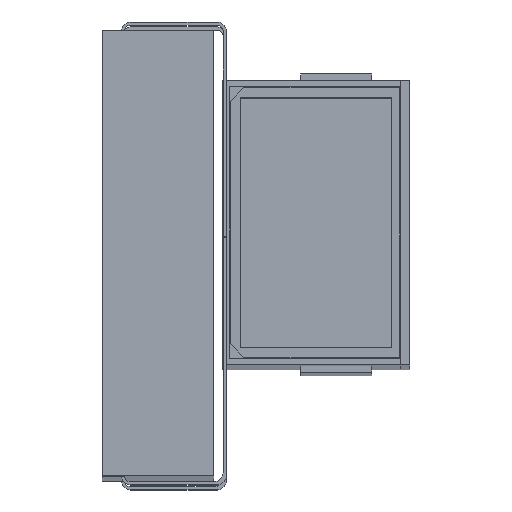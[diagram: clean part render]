
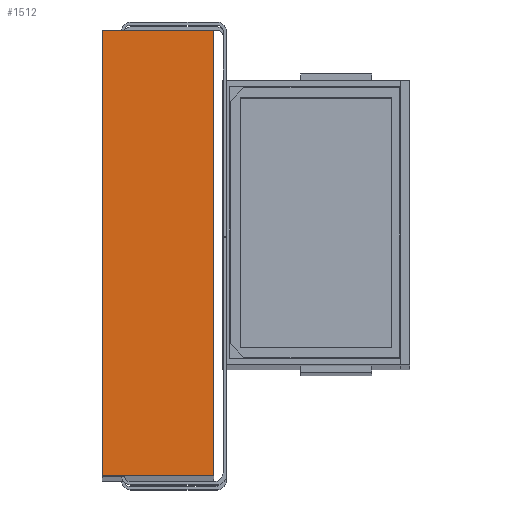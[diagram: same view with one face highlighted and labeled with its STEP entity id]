
A CAD part, top view. The second image highlights one B-rep face of the part: STEP entity #1512.
In plain terms, the highlighted planar face has unit normal (0, 0, 1).
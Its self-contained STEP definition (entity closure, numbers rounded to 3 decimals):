
#24 = CARTESIAN_POINT ( 'NONE',  ( 117.146, -537.3, 348.309 ) ) ;
#76 = DIRECTION ( 'NONE',  ( 0., 0., -1. ) ) ;
#96 = CARTESIAN_POINT ( 'NONE',  ( 117.146, -637.3, 348.309 ) ) ;
#111 = EDGE_CURVE ( 'NONE', #1804, #2458, #3276, .T. ) ;
#348 = EDGE_LOOP ( 'NONE', ( #1500, #1212, #1936, #3133 ) ) ;
#366 = PLANE ( 'NONE',  #819 ) ;
#383 = CARTESIAN_POINT ( 'NONE',  ( 92.146, -637.3, 348.309 ) ) ;
#453 = VECTOR ( 'NONE', #2460, 1000. ) ;
#546 = EDGE_CURVE ( 'NONE', #1466, #3219, #2153, .T. ) ;
#636 = CARTESIAN_POINT ( 'NONE',  ( 117.146, -637.3, 348.309 ) ) ;
#819 = AXIS2_PLACEMENT_3D ( 'NONE', #2873, #76, #1328 ) ;
#1212 = ORIENTED_EDGE ( 'NONE', *, *, #546, .F. ) ;
#1328 = DIRECTION ( 'NONE',  ( -1., 0., 0. ) ) ;
#1333 = EDGE_CURVE ( 'NONE', #2458, #3219, #1791, .T. ) ;
#1337 = VECTOR ( 'NONE', #2423, 1000. ) ;
#1412 = CARTESIAN_POINT ( 'NONE',  ( 92.146, -637.3, 348.309 ) ) ;
#1445 = EDGE_CURVE ( 'NONE', #1804, #1466, #3158, .T. ) ;
#1466 = VERTEX_POINT ( 'NONE', #1911 ) ;
#1488 = CARTESIAN_POINT ( 'NONE',  ( 92.146, -537.3, 348.309 ) ) ;
#1500 = ORIENTED_EDGE ( 'NONE', *, *, #1333, .T. ) ;
#1512 = ADVANCED_FACE ( 'NONE', ( #1618 ), #366, .F. ) ;
#1618 = FACE_OUTER_BOUND ( 'NONE', #348, .T. ) ;
#1660 = VECTOR ( 'NONE', #3783, 1000. ) ;
#1791 = LINE ( 'NONE', #636, #1337 ) ;
#1804 = VERTEX_POINT ( 'NONE', #2134 ) ;
#1911 = CARTESIAN_POINT ( 'NONE',  ( 92.146, -537.3, 348.309 ) ) ;
#1936 = ORIENTED_EDGE ( 'NONE', *, *, #1445, .F. ) ;
#2134 = CARTESIAN_POINT ( 'NONE',  ( 92.146, -637.3, 348.309 ) ) ;
#2153 = LINE ( 'NONE', #1488, #453 ) ;
#2423 = DIRECTION ( 'NONE',  ( 0., 1., 0. ) ) ;
#2458 = VERTEX_POINT ( 'NONE', #96 ) ;
#2460 = DIRECTION ( 'NONE',  ( 1., 0., 0. ) ) ;
#2873 = CARTESIAN_POINT ( 'NONE',  ( 92.146, -637.3, 348.309 ) ) ;
#2941 = VECTOR ( 'NONE', #3555, 1000. ) ;
#3133 = ORIENTED_EDGE ( 'NONE', *, *, #111, .T. ) ;
#3158 = LINE ( 'NONE', #383, #1660 ) ;
#3219 = VERTEX_POINT ( 'NONE', #24 ) ;
#3276 = LINE ( 'NONE', #1412, #2941 ) ;
#3555 = DIRECTION ( 'NONE',  ( 1., 0., 0. ) ) ;
#3783 = DIRECTION ( 'NONE',  ( 0., 1., 0. ) ) ;
